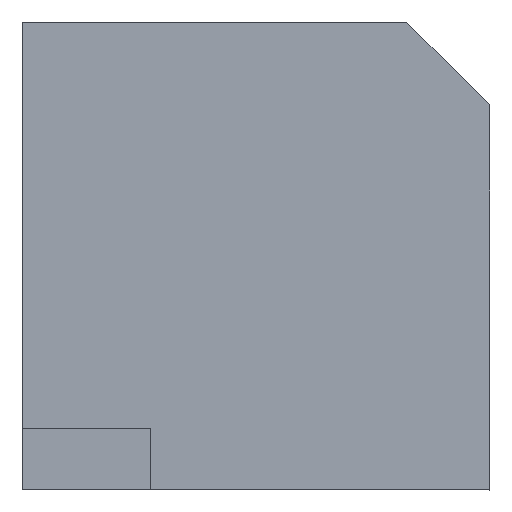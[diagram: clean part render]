
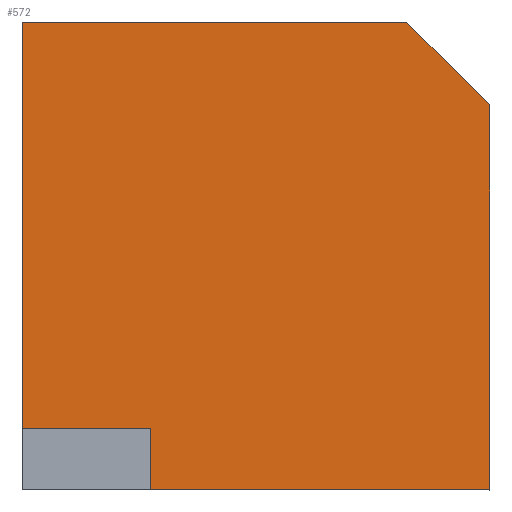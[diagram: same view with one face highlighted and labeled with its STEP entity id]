
A CAD part, top view. The second image highlights one B-rep face of the part: STEP entity #572.
In plain terms, the highlighted planar face has unit normal (0, 0, 1).
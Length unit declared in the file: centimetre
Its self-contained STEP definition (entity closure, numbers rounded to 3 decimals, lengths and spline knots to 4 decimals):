
#10 = EDGE_CURVE ( 'NONE', #273, #147, #111, .T. ) ;
#21 = VERTEX_POINT ( 'NONE', #325 ) ;
#34 = LINE ( 'NONE', #257, #590 ) ;
#35 = VERTEX_POINT ( 'NONE', #541 ) ;
#36 = CARTESIAN_POINT ( 'NONE',  ( 822.5595, 1000., 1000. ) ) ;
#65 = DIRECTION ( 'NONE',  ( 0., 1., 0. ) ) ;
#66 = VECTOR ( 'NONE', #272, 100. ) ;
#70 = EDGE_LOOP ( 'NONE', ( #226, #411, #118, #204, #550, #171, #459 ) ) ;
#77 = CARTESIAN_POINT ( 'NONE',  ( 1000., 1000., 1000. ) ) ;
#92 = AXIS2_PLACEMENT_3D ( 'NONE', #598, #387, #392 ) ;
#111 = LINE ( 'NONE', #535, #561 ) ;
#117 = CARTESIAN_POINT ( 'NONE',  ( 274.4275, 0., 1000. ) ) ;
#118 = ORIENTED_EDGE ( 'NONE', *, *, #10, .T. ) ;
#125 = DIRECTION ( 'NONE',  ( 0., 1., 0. ) ) ;
#130 = PLANE ( 'NONE',  #92 ) ;
#138 = CARTESIAN_POINT ( 'NONE',  ( 0., 130.5591, 1000. ) ) ;
#147 = VERTEX_POINT ( 'NONE', #181 ) ;
#153 = CARTESIAN_POINT ( 'NONE',  ( 0., 1000., 1000. ) ) ;
#159 = EDGE_CURVE ( 'NONE', #21, #358, #658, .T. ) ;
#160 = DIRECTION ( 'NONE',  ( 0., -1., 0. ) ) ;
#171 = ORIENTED_EDGE ( 'NONE', *, *, #629, .T. ) ;
#179 = LINE ( 'NONE', #77, #423 ) ;
#181 = CARTESIAN_POINT ( 'NONE',  ( 1000., 0., 1000. ) ) ;
#188 = EDGE_CURVE ( 'NONE', #273, #21, #606, .T. ) ;
#204 = ORIENTED_EDGE ( 'NONE', *, *, #588, .T. ) ;
#226 = ORIENTED_EDGE ( 'NONE', *, *, #159, .F. ) ;
#256 = CARTESIAN_POINT ( 'NONE',  ( 911.2798, 911.2798, 1000. ) ) ;
#257 = CARTESIAN_POINT ( 'NONE',  ( 0., 1000., 1000. ) ) ;
#263 = VECTOR ( 'NONE', #65, 100. ) ;
#272 = DIRECTION ( 'NONE',  ( -1., 0., 0. ) ) ;
#273 = VERTEX_POINT ( 'NONE', #667 ) ;
#285 = DIRECTION ( 'NONE',  ( 1., 0., 0. ) ) ;
#321 = EDGE_CURVE ( 'NONE', #407, #339, #455, .T. ) ;
#325 = CARTESIAN_POINT ( 'NONE',  ( 274.4275, 130.5591, 1000. ) ) ;
#339 = VERTEX_POINT ( 'NONE', #36 ) ;
#358 = VERTEX_POINT ( 'NONE', #138 ) ;
#371 = CARTESIAN_POINT ( 'NONE',  ( 0., 130.5591, 1000. ) ) ;
#378 = DIRECTION ( 'NONE',  ( -0.707, 0.707, 0. ) ) ;
#387 = DIRECTION ( 'NONE',  ( 0., 0., 1. ) ) ;
#392 = DIRECTION ( 'NONE',  ( 1., 0., 0. ) ) ;
#407 = VERTEX_POINT ( 'NONE', #470 ) ;
#411 = ORIENTED_EDGE ( 'NONE', *, *, #188, .F. ) ;
#423 = VECTOR ( 'NONE', #125, 100. ) ;
#430 = VECTOR ( 'NONE', #378, 100. ) ;
#440 = EDGE_CURVE ( 'NONE', #35, #358, #522, .T. ) ;
#453 = DIRECTION ( 'NONE',  ( -1., 0., 0. ) ) ;
#455 = LINE ( 'NONE', #256, #430 ) ;
#459 = ORIENTED_EDGE ( 'NONE', *, *, #440, .T. ) ;
#470 = CARTESIAN_POINT ( 'NONE',  ( 1000., 822.5595, 1000. ) ) ;
#522 = LINE ( 'NONE', #153, #638 ) ;
#535 = CARTESIAN_POINT ( 'NONE',  ( 0., 0., 1000. ) ) ;
#541 = CARTESIAN_POINT ( 'NONE',  ( 0., 1000., 1000. ) ) ;
#550 = ORIENTED_EDGE ( 'NONE', *, *, #321, .T. ) ;
#560 = FACE_OUTER_BOUND ( 'NONE', #70, .T. ) ;
#561 = VECTOR ( 'NONE', #285, 100. ) ;
#572 = ADVANCED_FACE ( 'NONE', ( #560 ), #130, .T. ) ;
#588 = EDGE_CURVE ( 'NONE', #147, #407, #179, .T. ) ;
#590 = VECTOR ( 'NONE', #453, 100. ) ;
#598 = CARTESIAN_POINT ( 'NONE',  ( 0., 0., 1000. ) ) ;
#606 = LINE ( 'NONE', #117, #263 ) ;
#629 = EDGE_CURVE ( 'NONE', #339, #35, #34, .T. ) ;
#638 = VECTOR ( 'NONE', #160, 100. ) ;
#658 = LINE ( 'NONE', #371, #66 ) ;
#667 = CARTESIAN_POINT ( 'NONE',  ( 274.4275, 0., 1000. ) ) ;
